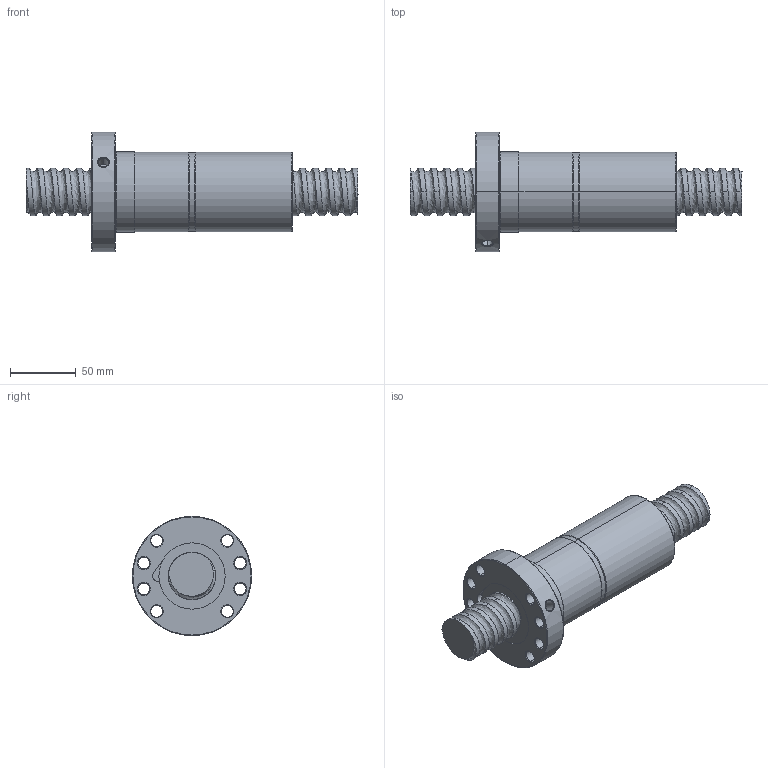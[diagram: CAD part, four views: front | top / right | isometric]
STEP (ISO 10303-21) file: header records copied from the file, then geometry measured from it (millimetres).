
FILE_DESCRIPTION (( 'STEP AP214' ), '1' );
FILE_NAME ('FDDC03610T5-F-A.STEP', '2010-07-06T05:16:03', ( 'XPAUTO' ), ( 'XPAUTO' ), 'SwSTEP 2.0', 'SolidWorks 2007', '' );
FILE_SCHEMA (( 'AUTOMOTIVE_DESIGN' ));
Products named in the file (3): FDDC03610T5-F-A.sldasm-Part-1_預設; FDDC03610T5-F-A; FDDC03610T5-F-A.sldasm-Part-2_預設
Assembly tree (2 placements, depth 2):
  FDDC03610T5-F-A
    FDDC03610T5-F-A.sldasm-Part-2_預設
    FDDC03610T5-F-A.sldasm-Part-1_預設
Bounding box: 253 x 91 x 91 mm (x, y, z)
Volume: 567933.2 mm3; surface area: 98746.9 mm2
Topology: 2 solids, 2 shells, 160 faces, 402 edges, 251 vertices
Faces by surface type: cylinder 97, cone 32, plane 16, torus 10, bspline 5
Entity records: 46377 total; most frequent: CARTESIAN_POINT 42576, ORIENTED_EDGE 804, DIRECTION 738, EDGE_CURVE 402, AXIS2_PLACEMENT_3D 301, VERTEX_POINT 251, EDGE_LOOP 185, ADVANCED_FACE 160
